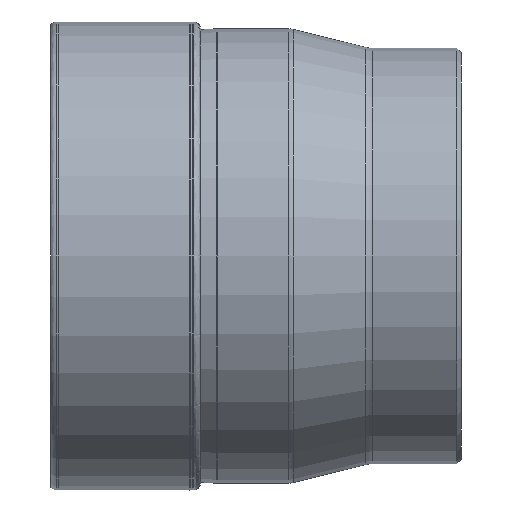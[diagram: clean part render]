
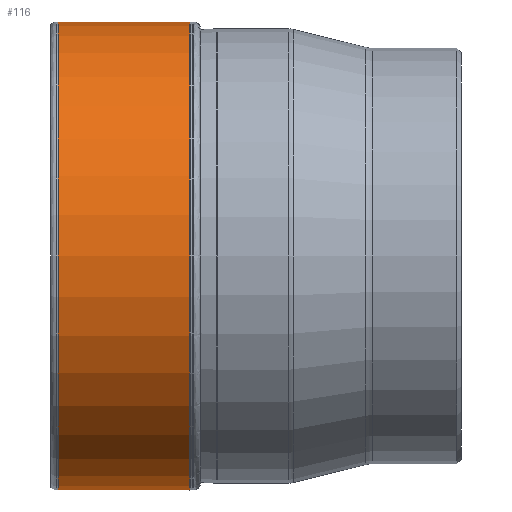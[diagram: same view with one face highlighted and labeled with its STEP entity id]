
A CAD part, front view. The second image highlights one B-rep face of the part: STEP entity #116.
In plain terms, the highlighted face is a revolution surface.
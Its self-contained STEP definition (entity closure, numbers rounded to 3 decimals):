
#47=SURFACE_OF_REVOLUTION('',#79,#63);
#63=AXIS1_PLACEMENT('',#661,#524);
#79=B_SPLINE_CURVE_WITH_KNOTS('',5,(#655,#656,#657,#658,#659,#660),
 .UNSPECIFIED.,.F.,.F.,(6,6),(0.,1.),.UNSPECIFIED.);
#116=ADVANCED_FACE('',(#168,#169),#47,.T.);
#168=FACE_BOUND('',#229,.T.);
#169=FACE_BOUND('',#230,.T.);
#229=EDGE_LOOP('',(#291));
#230=EDGE_LOOP('',(#292));
#291=ORIENTED_EDGE('',*,*,#370,.F.);
#292=ORIENTED_EDGE('',*,*,#369,.T.);
#338=VERTEX_POINT('',#645);
#339=VERTEX_POINT('',#654);
#369=EDGE_CURVE('',#338,#338,#400,.T.);
#370=EDGE_CURVE('',#339,#339,#401,.T.);
#400=CIRCLE('',#442,25.325);
#401=CIRCLE('',#443,25.323);
#442=AXIS2_PLACEMENT_3D('',#644,#519,#520);
#443=AXIS2_PLACEMENT_3D('',#653,#522,#523);
#519=DIRECTION('',(-1.,0.,0.));
#520=DIRECTION('',(0.,0.,1.));
#522=DIRECTION('',(-1.,0.,0.));
#523=DIRECTION('',(0.,0.,1.));
#524=DIRECTION('',(-1.,0.,0.));
#644=CARTESIAN_POINT('',(15.054,0.,0.));
#645=CARTESIAN_POINT('',(15.054,0.,25.325));
#653=CARTESIAN_POINT('',(0.831,0.,0.));
#654=CARTESIAN_POINT('',(0.831,0.,25.323));
#655=CARTESIAN_POINT('',(15.054,25.325,0.));
#656=CARTESIAN_POINT('',(12.21,25.343,0.));
#657=CARTESIAN_POINT('',(9.365,25.351,0.));
#658=CARTESIAN_POINT('',(6.52,25.35,0.));
#659=CARTESIAN_POINT('',(3.675,25.34,0.));
#660=CARTESIAN_POINT('',(0.831,25.323,0.));
#661=CARTESIAN_POINT('',(0.,0.,0.));
